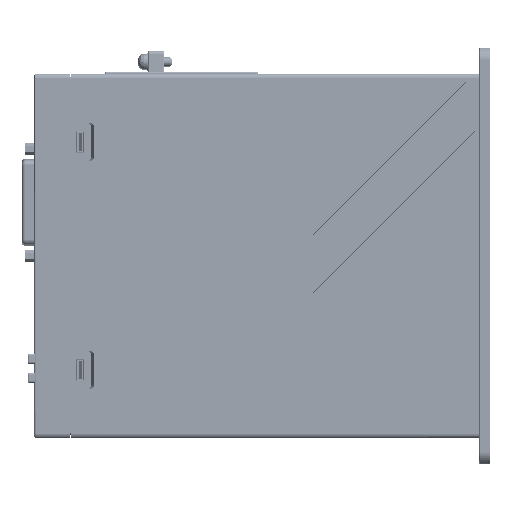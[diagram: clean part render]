
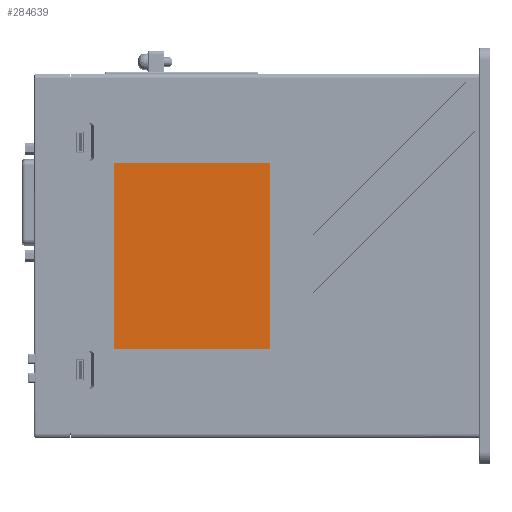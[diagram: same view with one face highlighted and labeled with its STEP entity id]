
A CAD part, left-side view. The second image highlights one B-rep face of the part: STEP entity #284639.
In plain terms, the highlighted planar face has unit normal (-1, 0, 0).
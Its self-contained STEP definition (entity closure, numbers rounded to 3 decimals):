
#268405=CARTESIAN_POINT('',(67.38,221.859,
-132.001));
#268406=DIRECTION('',(1.,0.,0.));
#268407=DIRECTION('',(0.,0.,-1.));
#268408=AXIS2_PLACEMENT_3D('',#268405,#268406,#268407);
#268410=DIRECTION('',(0.,0.,1.));
#268411=VECTOR('',#268410,81.);
#268412=CARTESIAN_POINT('',(67.38,222.359,
-132.001));
#268413=LINE('',#268412,#268411);
#268414=CARTESIAN_POINT('',(67.38,221.859,
-51.001));
#268415=DIRECTION('',(1.,0.,0.));
#268416=DIRECTION('',(0.,1.,0.));
#268417=AXIS2_PLACEMENT_3D('',#268414,#268415,#268416);
#268419=DIRECTION('',(0.,-1.,0.));
#268420=VECTOR('',#268419,67.5);
#268421=CARTESIAN_POINT('',(67.38,221.859,
-50.501));
#268422=LINE('',#268421,#268420);
#268423=CARTESIAN_POINT('',(67.38,154.359,
-51.001));
#268424=DIRECTION('',(1.,0.,0.));
#268425=DIRECTION('',(0.,0.,1.));
#268426=AXIS2_PLACEMENT_3D('',#268423,#268424,#268425);
#268428=DIRECTION('',(0.,0.,-1.));
#268429=VECTOR('',#268428,81.);
#268430=CARTESIAN_POINT('',(67.38,153.859,
-51.001));
#268431=LINE('',#268430,#268429);
#268432=CARTESIAN_POINT('',(67.38,154.359,
-132.001));
#268433=DIRECTION('',(1.,0.,0.));
#268434=DIRECTION('',(0.,-1.,0.));
#268435=AXIS2_PLACEMENT_3D('',#268432,#268433,#268434);
#268437=DIRECTION('',(0.,1.,0.));
#268438=VECTOR('',#268437,67.5);
#268439=CARTESIAN_POINT('',(67.38,154.359,
-132.501));
#268440=LINE('',#268439,#268438);
#272664=CARTESIAN_POINT('',(67.38,154.359,
-50.501));
#272665=CARTESIAN_POINT('',(67.38,221.859,
-50.501));
#272666=VERTEX_POINT('',#272664);
#272667=VERTEX_POINT('',#272665);
#272668=CARTESIAN_POINT('',(67.38,222.359,
-51.001));
#272669=VERTEX_POINT('',#272668);
#272670=CARTESIAN_POINT('',(67.38,221.859,
-132.501));
#272671=CARTESIAN_POINT('',(67.38,222.359,
-132.001));
#272672=VERTEX_POINT('',#272670);
#272673=VERTEX_POINT('',#272671);
#272674=CARTESIAN_POINT('',(67.38,153.859,
-51.001));
#272675=VERTEX_POINT('',#272674);
#272676=CARTESIAN_POINT('',(67.38,153.859,
-132.001));
#272677=VERTEX_POINT('',#272676);
#272678=CARTESIAN_POINT('',(67.38,154.359,
-132.501));
#272679=VERTEX_POINT('',#272678);
#284616=CARTESIAN_POINT('',(67.38,62.359,
-91.501));
#284617=DIRECTION('',(-1.,0.,0.));
#284618=DIRECTION('',(0.,0.,1.));
#284619=AXIS2_PLACEMENT_3D('',#284616,#284617,#284618);
#284620=PLANE('',#284619);
#284622=ORIENTED_EDGE('',*,*,#284621,.T.);
#284624=ORIENTED_EDGE('',*,*,#284623,.T.);
#284626=ORIENTED_EDGE('',*,*,#284625,.T.);
#284628=ORIENTED_EDGE('',*,*,#284627,.T.);
#284630=ORIENTED_EDGE('',*,*,#284629,.T.);
#284632=ORIENTED_EDGE('',*,*,#284631,.T.);
#284634=ORIENTED_EDGE('',*,*,#284633,.T.);
#284636=ORIENTED_EDGE('',*,*,#284635,.T.);
#284637=EDGE_LOOP('',(#284622,#284624,#284626,#284628,#284630,#284632,#284634,
#284636));
#284638=FACE_OUTER_BOUND('',#284637,.F.);
#268409=CIRCLE('',#268408,0.5);
#268418=CIRCLE('',#268417,0.5);
#268427=CIRCLE('',#268426,0.5);
#268436=CIRCLE('',#268435,0.5);
#284621=EDGE_CURVE('',#272672,#272673,#268409,.T.);
#284623=EDGE_CURVE('',#272673,#272669,#268413,.T.);
#284625=EDGE_CURVE('',#272669,#272667,#268418,.T.);
#284627=EDGE_CURVE('',#272667,#272666,#268422,.T.);
#284629=EDGE_CURVE('',#272666,#272675,#268427,.T.);
#284631=EDGE_CURVE('',#272675,#272677,#268431,.T.);
#284633=EDGE_CURVE('',#272677,#272679,#268436,.T.);
#284635=EDGE_CURVE('',#272679,#272672,#268440,.T.);
#284639=ADVANCED_FACE('',(#284638),#284620,.T.);
